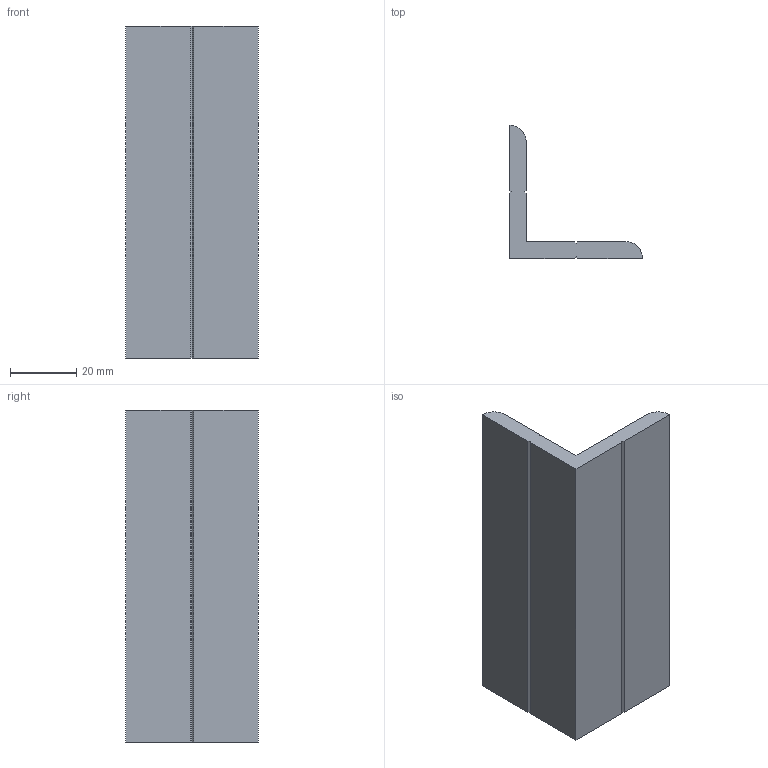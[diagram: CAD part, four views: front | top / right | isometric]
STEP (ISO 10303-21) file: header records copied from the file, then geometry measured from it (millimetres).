
FILE_DESCRIPTION (( 'STEP AP203' ), '1' );
FILE_NAME ('WL4040.STEP', '2024-02-19T12:05:52', ( '' ), ( '' ), 'SwSTEP 2.0', 'SolidWorks 2022', '' );
FILE_SCHEMA (( 'CONFIG_CONTROL_DESIGN' ));
Length unit declared in the file: millimetre
Products named in the file (1): WL4040
Bounding box: 40 x 40 x 100 mm (x, y, z)
Volume: 36327 mm3; surface area: 16463 mm2
Topology: 1 solids, 1 shells, 20 faces, 54 edges, 36 vertices
Faces by surface type: plane 18, cylinder 2
Entity records: 699 total; most frequent: CARTESIAN_POINT 111, ORIENTED_EDGE 108, DIRECTION 100, EDGE_CURVE 54, LINE 50, VECTOR 50, VERTEX_POINT 36, AXIS2_PLACEMENT_3D 25
